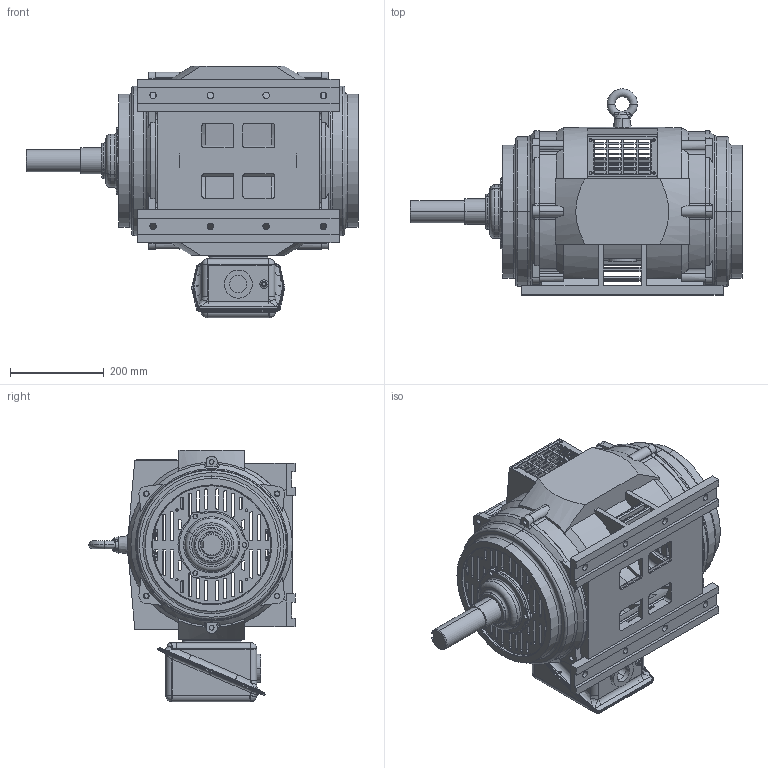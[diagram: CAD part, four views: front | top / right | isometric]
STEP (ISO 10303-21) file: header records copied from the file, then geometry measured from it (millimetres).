
FILE_DESCRIPTION (( 'STEP AP203' ), '1' );
FILE_NAME ('286.STEP', '2016-12-07T06:17:56', ( 'admin' ), ( 'REGAL' ), 'SwSTEP 2.0', 'SolidWorks 2011', '' );
FILE_SCHEMA (( 'CONFIG_CONTROL_DESIGN' ));
Products named in the file (1): 286
Bounding box: 708.5 x 440.04 x 536.86 mm (x, y, z)
Volume: 12701430.8 mm3; surface area: 2575566.8 mm2
Topology: 14 solids, 14 shells, 2020 faces, 5803 edges, 3768 vertices
Faces by surface type: plane 907, cylinder 859, torus 116, bspline 74, cone 54, sphere 10
Entity records: 74692 total; most frequent: CARTESIAN_POINT 20472, ORIENTED_EDGE 11562, DIRECTION 11265, EDGE_CURVE 5781, AXIS2_PLACEMENT_3D 4061, VERTEX_POINT 3768, VECTOR 3143, LINE 3143
